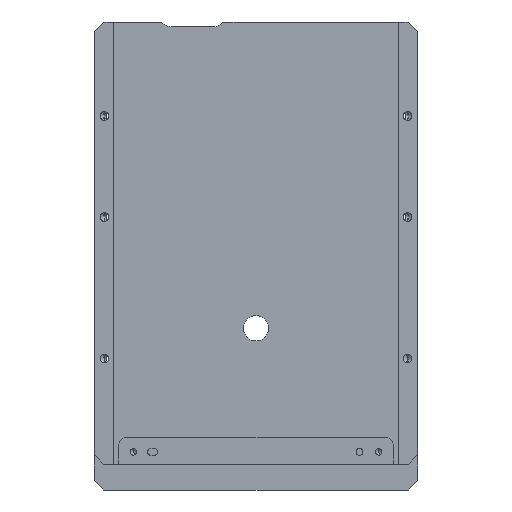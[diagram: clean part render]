
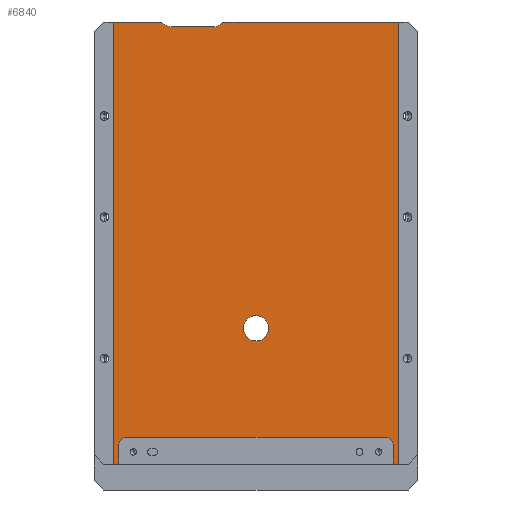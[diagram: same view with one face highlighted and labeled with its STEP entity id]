
A CAD part, front view. The second image highlights one B-rep face of the part: STEP entity #6840.
In plain terms, the highlighted planar face has unit normal (0, -1, 0).
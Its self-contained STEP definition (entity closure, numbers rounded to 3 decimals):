
#271 = LINE ( 'NONE', #10690, #6705 ) ;
#313 = VERTEX_POINT ( 'NONE', #14587 ) ;
#333 = VERTEX_POINT ( 'NONE', #1575 ) ;
#379 = CARTESIAN_POINT ( 'NONE',  ( 44.8, 1.25, 96.2 ) ) ;
#428 = CARTESIAN_POINT ( 'NONE',  ( -40.6, 1.25, -34.3 ) ) ;
#442 = CARTESIAN_POINT ( 'NONE',  ( -40.6, 1.25, -34.3 ) ) ;
#887 = CARTESIAN_POINT ( 'NONE',  ( -43.1, 1.25, -36.8 ) ) ;
#979 = VERTEX_POINT ( 'NONE', #16605 ) ;
#1088 = CARTESIAN_POINT ( 'NONE',  ( 43.1, 1.25, -36.8 ) ) ;
#1243 = DIRECTION ( 'NONE',  ( 0., -1., 0. ) ) ;
#1555 = ORIENTED_EDGE ( 'NONE', *, *, #2424, .T. ) ;
#1575 = CARTESIAN_POINT ( 'NONE',  ( 0., 1.25, -3.95 ) ) ;
#1623 = AXIS2_PLACEMENT_3D ( 'NONE', #6007, #13279, #17762 ) ;
#1956 = ORIENTED_EDGE ( 'NONE', *, *, #3993, .F. ) ;
#2196 = VECTOR ( 'NONE', #11966, 1000. ) ;
#2424 = EDGE_CURVE ( 'NONE', #12411, #313, #16984, .T. ) ;
#2501 = CARTESIAN_POINT ( 'NONE',  ( -44.8, 1.25, -42.7 ) ) ;
#2752 = DIRECTION ( 'NONE',  ( 0., 0., 1. ) ) ;
#2756 = EDGE_CURVE ( 'NONE', #9869, #313, #5981, .T. ) ;
#3047 = CARTESIAN_POINT ( 'NONE',  ( 0., 1.25, 0. ) ) ;
#3097 = DIRECTION ( 'NONE',  ( 1., 0., 0. ) ) ;
#3223 = ORIENTED_EDGE ( 'NONE', *, *, #11317, .T. ) ;
#3402 = AXIS2_PLACEMENT_3D ( 'NONE', #17569, #1243, #13356 ) ;
#3633 = EDGE_CURVE ( 'NONE', #12586, #9869, #10308, .T. ) ;
#3791 = DIRECTION ( 'NONE',  ( 0., 0., 1. ) ) ;
#3936 = EDGE_CURVE ( 'NONE', #333, #16088, #6584, .T. ) ;
#3991 = VERTEX_POINT ( 'NONE', #8289 ) ;
#3993 = EDGE_CURVE ( 'NONE', #4820, #12594, #6277, .T. ) ;
#4031 = CARTESIAN_POINT ( 'NONE',  ( -13.5, 1.25, 94.7 ) ) ;
#4496 = AXIS2_PLACEMENT_3D ( 'NONE', #3047, #17713, #11788 ) ;
#4501 = DIRECTION ( 'NONE',  ( 0., 0., -1. ) ) ;
#4553 = CARTESIAN_POINT ( 'NONE',  ( 0., 1.25, 94.7 ) ) ;
#4777 = FACE_BOUND ( 'NONE', #15712, .T. ) ;
#4820 = VERTEX_POINT ( 'NONE', #18749 ) ;
#4887 = DIRECTION ( 'NONE',  ( 0., 0., -1. ) ) ;
#5223 = DIRECTION ( 'NONE',  ( 1., 0., 0. ) ) ;
#5319 = VERTEX_POINT ( 'NONE', #15106 ) ;
#5393 = VECTOR ( 'NONE', #3097, 1000. ) ;
#5437 = CIRCLE ( 'NONE', #15354, 2.5 ) ;
#5552 = DIRECTION ( 'NONE',  ( 0., 0., -1. ) ) ;
#5663 = VERTEX_POINT ( 'NONE', #18006 ) ;
#5887 = ORIENTED_EDGE ( 'NONE', *, *, #3936, .F. ) ;
#5981 = LINE ( 'NONE', #9005, #12958 ) ;
#6007 = CARTESIAN_POINT ( 'NONE',  ( -40.6, 1.25, -36.8 ) ) ;
#6277 = CIRCLE ( 'NONE', #17126, 4. ) ;
#6349 = DIRECTION ( 'NONE',  ( 0., 0., -1. ) ) ;
#6584 = CIRCLE ( 'NONE', #10002, 3.95 ) ;
#6634 = VERTEX_POINT ( 'NONE', #4031 ) ;
#6705 = VECTOR ( 'NONE', #18056, 1000. ) ;
#6809 = EDGE_CURVE ( 'NONE', #979, #18817, #8977, .T. ) ;
#6840 = ADVANCED_FACE ( 'NONE', ( #4777, #13702 ), #16535, .T. ) ;
#7212 = VERTEX_POINT ( 'NONE', #379 ) ;
#7244 = EDGE_CURVE ( 'NONE', #5663, #7212, #11079, .T. ) ;
#7297 = ORIENTED_EDGE ( 'NONE', *, *, #16541, .F. ) ;
#7770 = LINE ( 'NONE', #4553, #5393 ) ;
#7814 = CARTESIAN_POINT ( 'NONE',  ( 0., 1.25, 0. ) ) ;
#7931 = CIRCLE ( 'NONE', #4496, 3.95 ) ;
#7989 = CARTESIAN_POINT ( 'NONE',  ( -44.8, 1.25, 96.2 ) ) ;
#8195 = CARTESIAN_POINT ( 'NONE',  ( 40.6, 1.25, -36.8 ) ) ;
#8289 = CARTESIAN_POINT ( 'NONE',  ( -10.378, 1.25, 96.2 ) ) ;
#8433 = EDGE_CURVE ( 'NONE', #12854, #12411, #19173, .T. ) ;
#8666 = DIRECTION ( 'NONE',  ( 1., 0., 0. ) ) ;
#8822 = ORIENTED_EDGE ( 'NONE', *, *, #10774, .F. ) ;
#8977 = LINE ( 'NONE', #13227, #2196 ) ;
#9005 = CARTESIAN_POINT ( 'NONE',  ( -43.1, 1.25, -42.7 ) ) ;
#9197 = DIRECTION ( 'NONE',  ( 0., 0., -1. ) ) ;
#9254 = VECTOR ( 'NONE', #5223, 1000. ) ;
#9598 = ORIENTED_EDGE ( 'NONE', *, *, #10455, .F. ) ;
#9787 = ORIENTED_EDGE ( 'NONE', *, *, #13861, .F. ) ;
#9869 = VERTEX_POINT ( 'NONE', #887 ) ;
#10002 = AXIS2_PLACEMENT_3D ( 'NONE', #7814, #13709, #4887 ) ;
#10073 = EDGE_LOOP ( 'NONE', ( #1956, #13158, #11520, #1555, #16831, #14714, #7297, #8822, #11072, #10282, #12267, #3223, #19144, #9787 ) ) ;
#10282 = ORIENTED_EDGE ( 'NONE', *, *, #11168, .T. ) ;
#10308 = CIRCLE ( 'NONE', #1623, 2.5 ) ;
#10395 = CARTESIAN_POINT ( 'NONE',  ( -44.8, 1.25, -42.7 ) ) ;
#10455 = EDGE_CURVE ( 'NONE', #16088, #333, #7931, .T. ) ;
#10690 = CARTESIAN_POINT ( 'NONE',  ( -44.8, 1.25, 96.2 ) ) ;
#10725 = DIRECTION ( 'NONE',  ( 0., -1., 0. ) ) ;
#10774 = EDGE_CURVE ( 'NONE', #18817, #5319, #5437, .T. ) ;
#11072 = ORIENTED_EDGE ( 'NONE', *, *, #6809, .F. ) ;
#11079 = LINE ( 'NONE', #11452, #11526 ) ;
#11168 = EDGE_CURVE ( 'NONE', #979, #5663, #13190, .T. ) ;
#11185 = CARTESIAN_POINT ( 'NONE',  ( 0., 1.25, 3.95 ) ) ;
#11194 = AXIS2_PLACEMENT_3D ( 'NONE', #16928, #10725, #6349 ) ;
#11246 = LINE ( 'NONE', #17178, #18457 ) ;
#11317 = EDGE_CURVE ( 'NONE', #7212, #3991, #271, .T. ) ;
#11452 = CARTESIAN_POINT ( 'NONE',  ( 44.8, 1.25, 96.2 ) ) ;
#11520 = ORIENTED_EDGE ( 'NONE', *, *, #8433, .T. ) ;
#11526 = VECTOR ( 'NONE', #3791, 1000. ) ;
#11788 = DIRECTION ( 'NONE',  ( 0., 0., -1. ) ) ;
#11817 = CARTESIAN_POINT ( 'NONE',  ( -44.8, 1.25, -42.7 ) ) ;
#11954 = DIRECTION ( 'NONE',  ( 0., -1., 0. ) ) ;
#11966 = DIRECTION ( 'NONE',  ( 0., 0., 1. ) ) ;
#12013 = CARTESIAN_POINT ( 'NONE',  ( -26.5, 1.25, 94.7 ) ) ;
#12267 = ORIENTED_EDGE ( 'NONE', *, *, #7244, .T. ) ;
#12338 = EDGE_CURVE ( 'NONE', #6634, #3991, #12685, .T. ) ;
#12411 = VERTEX_POINT ( 'NONE', #11817 ) ;
#12586 = VERTEX_POINT ( 'NONE', #442 ) ;
#12594 = VERTEX_POINT ( 'NONE', #12013 ) ;
#12685 = CIRCLE ( 'NONE', #3402, 4. ) ;
#12854 = VERTEX_POINT ( 'NONE', #7989 ) ;
#12931 = DIRECTION ( 'NONE',  ( 0., -1., 0. ) ) ;
#12958 = VECTOR ( 'NONE', #9197, 1000. ) ;
#13158 = ORIENTED_EDGE ( 'NONE', *, *, #17168, .T. ) ;
#13190 = LINE ( 'NONE', #10395, #18497 ) ;
#13227 = CARTESIAN_POINT ( 'NONE',  ( 43.1, 1.25, -42.7 ) ) ;
#13279 = DIRECTION ( 'NONE',  ( 0., -1., 0. ) ) ;
#13356 = DIRECTION ( 'NONE',  ( 0., 0., -1. ) ) ;
#13702 = FACE_OUTER_BOUND ( 'NONE', #10073, .T. ) ;
#13709 = DIRECTION ( 'NONE',  ( 0., -1., 0. ) ) ;
#13818 = DIRECTION ( 'NONE',  ( -1., 0., 0. ) ) ;
#13861 = EDGE_CURVE ( 'NONE', #12594, #6634, #7770, .T. ) ;
#13964 = VECTOR ( 'NONE', #4501, 1000. ) ;
#14101 = LINE ( 'NONE', #428, #16062 ) ;
#14579 = CARTESIAN_POINT ( 'NONE',  ( -26.5, 1.25, 98.7 ) ) ;
#14587 = CARTESIAN_POINT ( 'NONE',  ( -43.1, 1.25, -42.7 ) ) ;
#14714 = ORIENTED_EDGE ( 'NONE', *, *, #3633, .F. ) ;
#15106 = CARTESIAN_POINT ( 'NONE',  ( 40.6, 1.25, -34.3 ) ) ;
#15354 = AXIS2_PLACEMENT_3D ( 'NONE', #8195, #11954, #2752 ) ;
#15702 = DIRECTION ( 'NONE',  ( -1., 0., 0. ) ) ;
#15712 = EDGE_LOOP ( 'NONE', ( #9598, #5887 ) ) ;
#16062 = VECTOR ( 'NONE', #13818, 1000. ) ;
#16088 = VERTEX_POINT ( 'NONE', #11185 ) ;
#16535 = PLANE ( 'NONE',  #11194 ) ;
#16541 = EDGE_CURVE ( 'NONE', #5319, #12586, #14101, .T. ) ;
#16605 = CARTESIAN_POINT ( 'NONE',  ( 43.1, 1.25, -42.7 ) ) ;
#16831 = ORIENTED_EDGE ( 'NONE', *, *, #2756, .F. ) ;
#16928 = CARTESIAN_POINT ( 'NONE',  ( 0., 1.25, 0. ) ) ;
#16984 = LINE ( 'NONE', #2501, #9254 ) ;
#17126 = AXIS2_PLACEMENT_3D ( 'NONE', #14579, #12931, #5552 ) ;
#17168 = EDGE_CURVE ( 'NONE', #4820, #12854, #11246, .T. ) ;
#17178 = CARTESIAN_POINT ( 'NONE',  ( -44.8, 1.25, 96.2 ) ) ;
#17569 = CARTESIAN_POINT ( 'NONE',  ( -13.5, 1.25, 98.7 ) ) ;
#17631 = CARTESIAN_POINT ( 'NONE',  ( -44.8, 1.25, 96.2 ) ) ;
#17713 = DIRECTION ( 'NONE',  ( 0., -1., 0. ) ) ;
#17762 = DIRECTION ( 'NONE',  ( 0., 0., 1. ) ) ;
#18006 = CARTESIAN_POINT ( 'NONE',  ( 44.8, 1.25, -42.7 ) ) ;
#18056 = DIRECTION ( 'NONE',  ( -1., 0., 0. ) ) ;
#18457 = VECTOR ( 'NONE', #15702, 1000. ) ;
#18497 = VECTOR ( 'NONE', #8666, 1000. ) ;
#18749 = CARTESIAN_POINT ( 'NONE',  ( -29.622, 1.25, 96.2 ) ) ;
#18817 = VERTEX_POINT ( 'NONE', #1088 ) ;
#19144 = ORIENTED_EDGE ( 'NONE', *, *, #12338, .F. ) ;
#19173 = LINE ( 'NONE', #17631, #13964 ) ;
